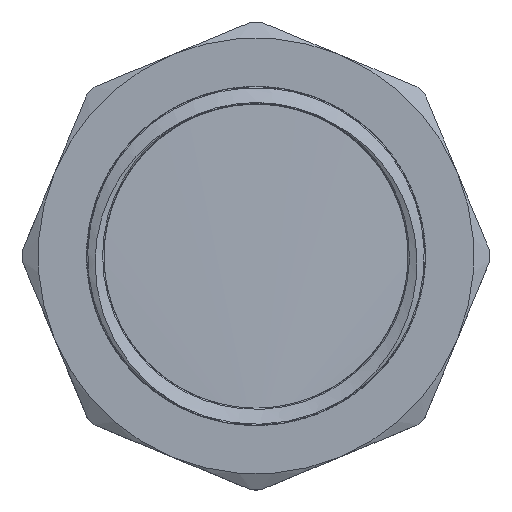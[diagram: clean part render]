
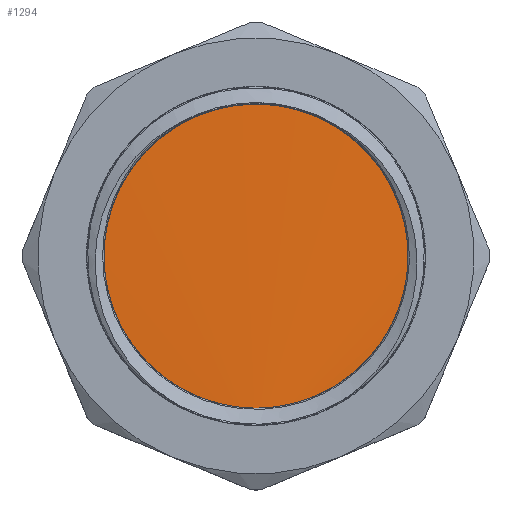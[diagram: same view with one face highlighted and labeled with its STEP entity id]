
A CAD part, top view. The second image highlights one B-rep face of the part: STEP entity #1294.
In plain terms, the highlighted cylindrical face has radius 14.921 mm (diameter 29.841 mm), a full revolution.
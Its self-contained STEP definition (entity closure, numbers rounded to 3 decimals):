
#25=B_SPLINE_CURVE_WITH_KNOTS('',3,(#2033,#2034,#2035,#2036,#2037,#2038,
#2039,#2040,#2041,#2042,#2043,#2044,#2045,#2046,#2047,#2048,#2049,#2050,
#2051,#2052,#2053,#2054,#2055,#2056,#2057,#2058,#2059,#2060,#2061,#2062,
#2063,#2064,#2065,#2066,#2067,#2068,#2069,#2070,#2071,#2072,#2073,#2074,
#2075),.UNSPECIFIED.,.F.,.F.,(4,3,3,3,3,3,3,3,3,3,3,3,3,3,4),(-18.85,
-18.689,-18.194,-17.7,-17.205,
-16.71,-16.215,-15.721,-15.226,
-14.731,-14.236,-13.742,-13.247,
-12.752,-12.566),.UNSPECIFIED.);
#141=LINE('',#2030,#185);
#142=LINE('',#2032,#186);
#185=VECTOR('',#1659,14.921);
#186=VECTOR('',#1660,14.921);
#221=CYLINDRICAL_SURFACE('',#1435,14.921);
#282=FACE_OUTER_BOUND('',#364,.T.);
#364=EDGE_LOOP('',(#1014,#1015,#1016));
#556=VERTEX_POINT('',#2028);
#557=VERTEX_POINT('',#2029);
#558=VERTEX_POINT('',#2031);
#721=EDGE_CURVE('',#556,#557,#141,.T.);
#722=EDGE_CURVE('',#556,#558,#142,.T.);
#723=EDGE_CURVE('',#558,#557,#25,.T.);
#1014=ORIENTED_EDGE('',*,*,#721,.F.);
#1015=ORIENTED_EDGE('',*,*,#722,.T.);
#1016=ORIENTED_EDGE('',*,*,#723,.T.);
#1294=ADVANCED_FACE('',(#282),#221,.T.);
#1435=AXIS2_PLACEMENT_3D('',#2027,#1657,#1658);
#1657=DIRECTION('center_axis',(0.,0.,-1.));
#1658=DIRECTION('ref_axis',(0.,1.,0.));
#1659=DIRECTION('',(0.,0.,-1.));
#1660=DIRECTION('',(0.,0.,1.));
#2027=CARTESIAN_POINT('Origin',(0.,0.,7.25));
#2028=CARTESIAN_POINT('',(0.,-14.921,3.592));
#2029=CARTESIAN_POINT('',(0.,-14.921,1.793));
#2030=CARTESIAN_POINT('',(0.,-14.921,7.25));
#2031=CARTESIAN_POINT('',(0.,-14.921,3.593));
#2032=CARTESIAN_POINT('',(0.,-14.921,7.25));
#2033=CARTESIAN_POINT('Ctrl Pts',(0.,-14.92,
3.593));
#2034=CARTESIAN_POINT('Ctrl Pts',(-0.799,-14.921,
3.578));
#2035=CARTESIAN_POINT('Ctrl Pts',(-1.597,-14.858,3.563));
#2036=CARTESIAN_POINT('Ctrl Pts',(-2.384,-14.73,3.547));
#2037=CARTESIAN_POINT('Ctrl Pts',(-4.813,-14.337,3.5));
#2038=CARTESIAN_POINT('Ctrl Pts',(-7.142,-13.331,3.453));
#2039=CARTESIAN_POINT('Ctrl Pts',(-9.093,-11.832,3.405));
#2040=CARTESIAN_POINT('Ctrl Pts',(-11.043,-10.333,3.358));
#2041=CARTESIAN_POINT('Ctrl Pts',(-12.615,-8.341,3.311));
#2042=CARTESIAN_POINT('Ctrl Pts',(-13.62,-6.096,3.264));
#2043=CARTESIAN_POINT('Ctrl Pts',(-14.625,-3.85,3.217));
#2044=CARTESIAN_POINT('Ctrl Pts',(-15.063,-1.351,3.169));
#2045=CARTESIAN_POINT('Ctrl Pts',(-14.881,1.102,3.122));
#2046=CARTESIAN_POINT('Ctrl Pts',(-14.699,3.556,3.075));
#2047=CARTESIAN_POINT('Ctrl Pts',(-13.898,5.963,3.028));
#2048=CARTESIAN_POINT('Ctrl Pts',(-12.573,8.036,2.98));
#2049=CARTESIAN_POINT('Ctrl Pts',(-11.248,10.109,2.933));
#2050=CARTESIAN_POINT('Ctrl Pts',(-9.4,11.847,2.886));
#2051=CARTESIAN_POINT('Ctrl Pts',(-7.25,13.042,2.839));
#2052=CARTESIAN_POINT('Ctrl Pts',(-5.1,14.238,2.791));
#2053=CARTESIAN_POINT('Ctrl Pts',(-2.648,14.89,2.744));
#2054=CARTESIAN_POINT('Ctrl Pts',(-0.188,14.921,2.697));
#2055=CARTESIAN_POINT('Ctrl Pts',(2.272,14.952,2.65));
#2056=CARTESIAN_POINT('Ctrl Pts',(4.74,14.361,2.602));
#2057=CARTESIAN_POINT('Ctrl Pts',(6.919,13.221,2.555));
#2058=CARTESIAN_POINT('Ctrl Pts',(9.099,12.08,2.508));
#2059=CARTESIAN_POINT('Ctrl Pts',(10.991,10.389,2.461));
#2060=CARTESIAN_POINT('Ctrl Pts',(12.367,8.35,2.413));
#2061=CARTESIAN_POINT('Ctrl Pts',(13.744,6.311,2.366));
#2062=CARTESIAN_POINT('Ctrl Pts',(14.605,3.924,2.319));
#2063=CARTESIAN_POINT('Ctrl Pts',(14.849,1.476,2.272));
#2064=CARTESIAN_POINT('Ctrl Pts',(15.092,-0.972,2.224));
#2065=CARTESIAN_POINT('Ctrl Pts',(14.717,-3.481,2.177));
#2066=CARTESIAN_POINT('Ctrl Pts',(13.769,-5.751,2.13));
#2067=CARTESIAN_POINT('Ctrl Pts',(12.821,-8.021,2.083));
#2068=CARTESIAN_POINT('Ctrl Pts',(11.3,-10.052,2.035));
#2069=CARTESIAN_POINT('Ctrl Pts',(9.387,-11.599,1.988));
#2070=CARTESIAN_POINT('Ctrl Pts',(7.475,-13.147,1.941));
#2071=CARTESIAN_POINT('Ctrl Pts',(5.172,-14.212,1.894));
#2072=CARTESIAN_POINT('Ctrl Pts',(2.754,-14.666,1.846));
#2073=CARTESIAN_POINT('Ctrl Pts',(1.847,-14.836,1.829));
#2074=CARTESIAN_POINT('Ctrl Pts',(0.924,-14.92,1.811));
#2075=CARTESIAN_POINT('Ctrl Pts',(0.,-14.92,
1.793));
